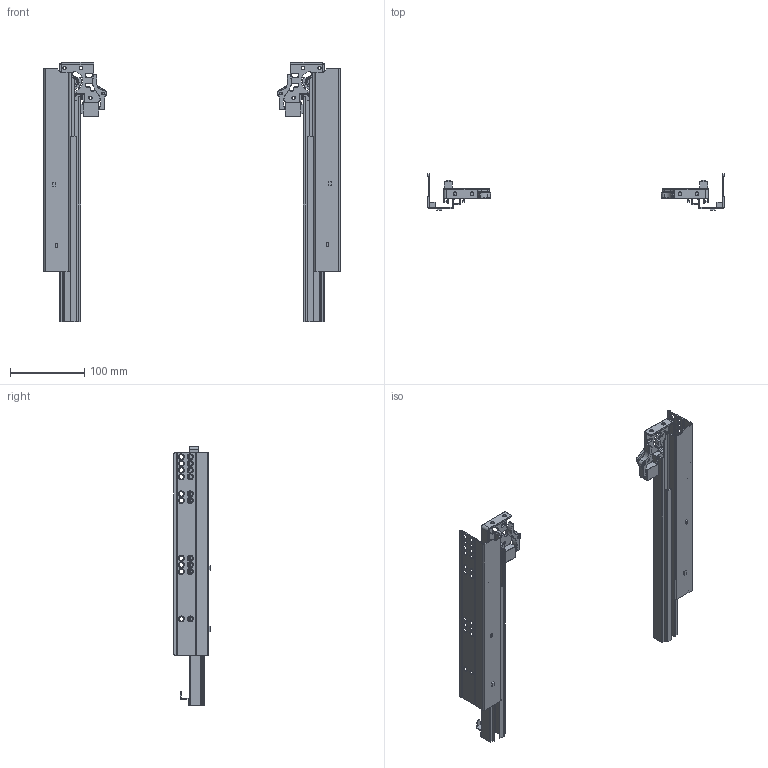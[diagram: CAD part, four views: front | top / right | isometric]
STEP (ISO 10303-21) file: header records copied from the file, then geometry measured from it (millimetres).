
FILE_DESCRIPTION(/* description */ (''),/* implementation_level */ '2;1');
FILE_NAME(/* name */ 'D:\$Workingspace\Designs\Katalog\Cadsoft\GTV Prowadnice\Prowadnice GTV_bryły 3D\PB-0FPO-350.stp',/* time_stamp */ '2016-11-21T11:57:01+01:00',/* author */ ('tomaszw'),/* organization */ (''),/* preprocessor_version */ 'ST-DEVELOPER v16.1',/* originating_system */ 'Autodesk Inventor 2016',/* authorisation */ '');
FILE_SCHEMA (('AUTOMOTIVE_DESIGN { 1 0 10303 214 3 1 1 }'));
Length unit declared in the file: millimetre
Products named in the file (9): PB-0FPO-CL-350; PB-0FPO-CR-350; PB-0FPO-DL-350; PB-0FPO-DR-350; PB-0FPO-DWL-350; PB-0FPO-DWR-350; PB-0FPO-SL; PB-0FPO-SR; PB-0FPO
Assembly tree (8 placements, depth 2):
  PB-0FPO
    PB-0FPO-CL-350
    PB-0FPO-CR-350
    PB-0FPO-DL-350
    PB-0FPO-DR-350
    PB-0FPO-DWL-350
    PB-0FPO-DWR-350
    PB-0FPO-SL
    PB-0FPO-SR
Bounding box: 400 x 48.8 x 350 mm (x, y, z)
Volume: 237485.1 mm3; surface area: 283716.4 mm2
Topology: 16 solids, 16 shells, 1866 faces, 4302 edges, 2474 vertices
Faces by surface type: cylinder 786, plane 440, torus 366, sphere 198, cone 40, bspline 36
Full cylindrical faces by diameter (mm): 3 x2, 4 x6, 4.5 x6, 5 x2, 6 x40, 7.889 x2
Entity records: 55865 total; most frequent: CARTESIAN_POINT 11079, DIRECTION 9896, ORIENTED_EDGE 8248, EDGE_CURVE 4124, AXIS2_PLACEMENT_3D 3993, VERTEX_POINT 2428, CIRCLE 2134, EDGE_LOOP 2132
